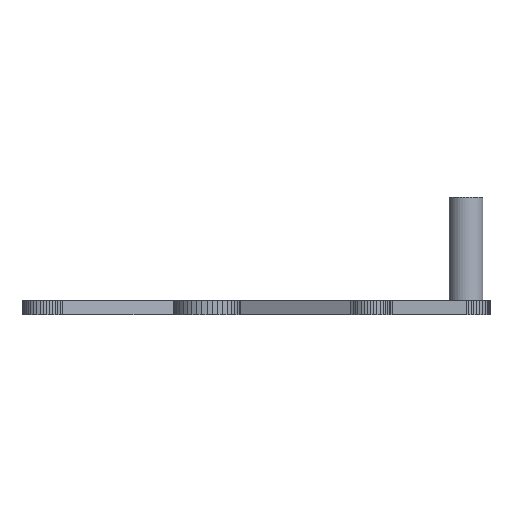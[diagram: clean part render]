
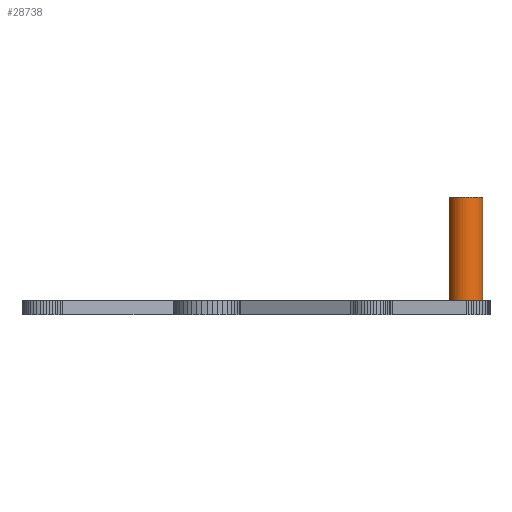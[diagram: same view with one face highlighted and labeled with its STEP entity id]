
A CAD part, front view. The second image highlights one B-rep face of the part: STEP entity #28738.
In plain terms, the highlighted cylindrical face has radius 6 mm (diameter 12 mm), a full revolution.
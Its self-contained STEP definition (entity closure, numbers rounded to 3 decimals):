
#72 = PLANE('',#73);
#73 = AXIS2_PLACEMENT_3D('',#74,#75,#76);
#74 = CARTESIAN_POINT('',(-10.222,-3.262,5.));
#75 = DIRECTION('',(-0.,-0.,-1.));
#76 = DIRECTION('',(-1.,0.,0.));
#15149 = EDGE_CURVE('',#15150,#15150,#15152,.T.);
#15150 = VERTEX_POINT('',#15151);
#15151 = CARTESIAN_POINT('',(80.406,-18.496,5.));
#15152 = SURFACE_CURVE('',#15153,(#15158,#15169),.PCURVE_S1.);
#15153 = CIRCLE('',#15154,6.);
#15154 = AXIS2_PLACEMENT_3D('',#15155,#15156,#15157);
#15155 = CARTESIAN_POINT('',(74.406,-18.496,5.));
#15156 = DIRECTION('',(0.,0.,1.));
#15157 = DIRECTION('',(1.,0.,-0.));
#15158 = PCURVE('',#72,#15159);
#15159 = DEFINITIONAL_REPRESENTATION('',(#15160),#15168);
#15160 = ( BOUNDED_CURVE() B_SPLINE_CURVE(2,(#15161,#15162,#15163,#15164
    ,#15165,#15166,#15167),.UNSPECIFIED.,.T.,.F.) 
B_SPLINE_CURVE_WITH_KNOTS((1,2,2,2,2,1),(-2.094,0.,
    2.094,4.189,6.283,8.378),
.UNSPECIFIED.) CURVE() GEOMETRIC_REPRESENTATION_ITEM() 
RATIONAL_B_SPLINE_CURVE((1.,0.5,1.,0.5,1.,0.5,1.)) REPRESENTATION_ITEM(
  '') );
#15161 = CARTESIAN_POINT('',(-90.629,-15.235));
#15162 = CARTESIAN_POINT('',(-90.629,-4.842));
#15163 = CARTESIAN_POINT('',(-81.629,-10.038));
#15164 = CARTESIAN_POINT('',(-72.629,-15.235));
#15165 = CARTESIAN_POINT('',(-81.629,-20.431));
#15166 = CARTESIAN_POINT('',(-90.629,-25.627));
#15167 = CARTESIAN_POINT('',(-90.629,-15.235));
#15168 = ( GEOMETRIC_REPRESENTATION_CONTEXT(2) 
PARAMETRIC_REPRESENTATION_CONTEXT() REPRESENTATION_CONTEXT('2D SPACE',''
  ) );
#15169 = PCURVE('',#15170,#15175);
#15170 = CYLINDRICAL_SURFACE('',#15171,6.);
#15171 = AXIS2_PLACEMENT_3D('',#15172,#15173,#15174);
#15172 = CARTESIAN_POINT('',(74.406,-18.496,4.5));
#15173 = DIRECTION('',(0.,0.,1.));
#15174 = DIRECTION('',(1.,0.,-0.));
#15175 = DEFINITIONAL_REPRESENTATION('',(#15176),#15180);
#15176 = LINE('',#15177,#15178);
#15177 = CARTESIAN_POINT('',(0.,0.5));
#15178 = VECTOR('',#15179,1.);
#15179 = DIRECTION('',(1.,0.));
#15180 = ( GEOMETRIC_REPRESENTATION_CONTEXT(2) 
PARAMETRIC_REPRESENTATION_CONTEXT() REPRESENTATION_CONTEXT('2D SPACE',''
  ) );
#28738 = ADVANCED_FACE('',(#28739),#15170,.T.);
#28739 = FACE_BOUND('',#28740,.T.);
#28740 = EDGE_LOOP('',(#28741,#28764,#28791,#28792));
#28741 = ORIENTED_EDGE('',*,*,#28742,.T.);
#28742 = EDGE_CURVE('',#15150,#28743,#28745,.T.);
#28743 = VERTEX_POINT('',#28744);
#28744 = CARTESIAN_POINT('',(80.406,-18.496,41.8));
#28745 = SEAM_CURVE('',#28746,(#28750,#28757),.PCURVE_S1.);
#28746 = LINE('',#28747,#28748);
#28747 = CARTESIAN_POINT('',(80.406,-18.496,4.5));
#28748 = VECTOR('',#28749,1.);
#28749 = DIRECTION('',(0.,0.,1.));
#28750 = PCURVE('',#15170,#28751);
#28751 = DEFINITIONAL_REPRESENTATION('',(#28752),#28756);
#28752 = LINE('',#28753,#28754);
#28753 = CARTESIAN_POINT('',(6.283,-0.));
#28754 = VECTOR('',#28755,1.);
#28755 = DIRECTION('',(0.,1.));
#28756 = ( GEOMETRIC_REPRESENTATION_CONTEXT(2) 
PARAMETRIC_REPRESENTATION_CONTEXT() REPRESENTATION_CONTEXT('2D SPACE',''
  ) );
#28757 = PCURVE('',#15170,#28758);
#28758 = DEFINITIONAL_REPRESENTATION('',(#28759),#28763);
#28759 = LINE('',#28760,#28761);
#28760 = CARTESIAN_POINT('',(0.,-0.));
#28761 = VECTOR('',#28762,1.);
#28762 = DIRECTION('',(0.,1.));
#28763 = ( GEOMETRIC_REPRESENTATION_CONTEXT(2) 
PARAMETRIC_REPRESENTATION_CONTEXT() REPRESENTATION_CONTEXT('2D SPACE',''
  ) );
#28764 = ORIENTED_EDGE('',*,*,#28765,.F.);
#28765 = EDGE_CURVE('',#28743,#28743,#28766,.T.);
#28766 = SURFACE_CURVE('',#28767,(#28772,#28779),.PCURVE_S1.);
#28767 = CIRCLE('',#28768,6.);
#28768 = AXIS2_PLACEMENT_3D('',#28769,#28770,#28771);
#28769 = CARTESIAN_POINT('',(74.406,-18.496,41.8));
#28770 = DIRECTION('',(0.,0.,1.));
#28771 = DIRECTION('',(1.,0.,-0.));
#28772 = PCURVE('',#15170,#28773);
#28773 = DEFINITIONAL_REPRESENTATION('',(#28774),#28778);
#28774 = LINE('',#28775,#28776);
#28775 = CARTESIAN_POINT('',(0.,37.3));
#28776 = VECTOR('',#28777,1.);
#28777 = DIRECTION('',(1.,0.));
#28778 = ( GEOMETRIC_REPRESENTATION_CONTEXT(2) 
PARAMETRIC_REPRESENTATION_CONTEXT() REPRESENTATION_CONTEXT('2D SPACE',''
  ) );
#28779 = PCURVE('',#28780,#28785);
#28780 = PLANE('',#28781);
#28781 = AXIS2_PLACEMENT_3D('',#28782,#28783,#28784);
#28782 = CARTESIAN_POINT('',(74.406,-18.496,41.8));
#28783 = DIRECTION('',(0.,0.,1.));
#28784 = DIRECTION('',(1.,0.,-0.));
#28785 = DEFINITIONAL_REPRESENTATION('',(#28786),#28790);
#28786 = CIRCLE('',#28787,6.);
#28787 = AXIS2_PLACEMENT_2D('',#28788,#28789);
#28788 = CARTESIAN_POINT('',(0.,0.));
#28789 = DIRECTION('',(1.,0.));
#28790 = ( GEOMETRIC_REPRESENTATION_CONTEXT(2) 
PARAMETRIC_REPRESENTATION_CONTEXT() REPRESENTATION_CONTEXT('2D SPACE',''
  ) );
#28791 = ORIENTED_EDGE('',*,*,#28742,.F.);
#28792 = ORIENTED_EDGE('',*,*,#15149,.T.);
